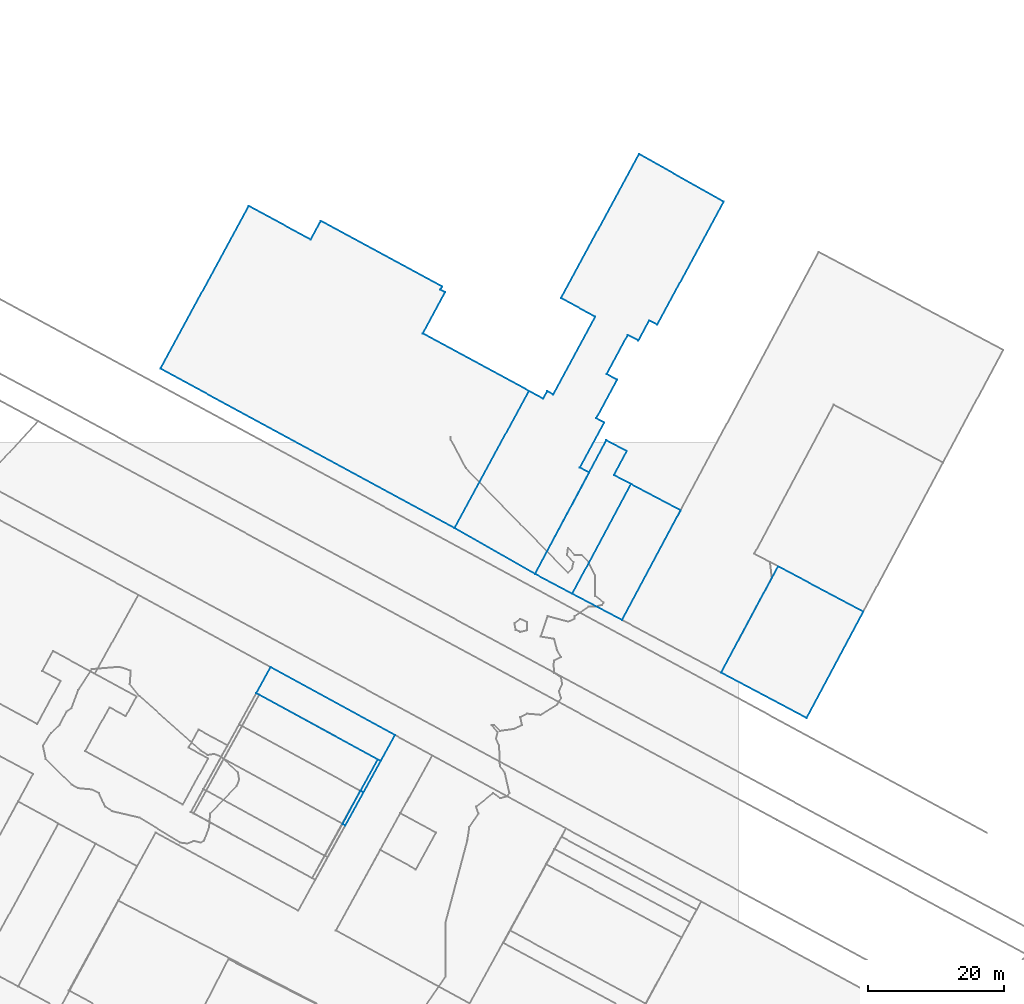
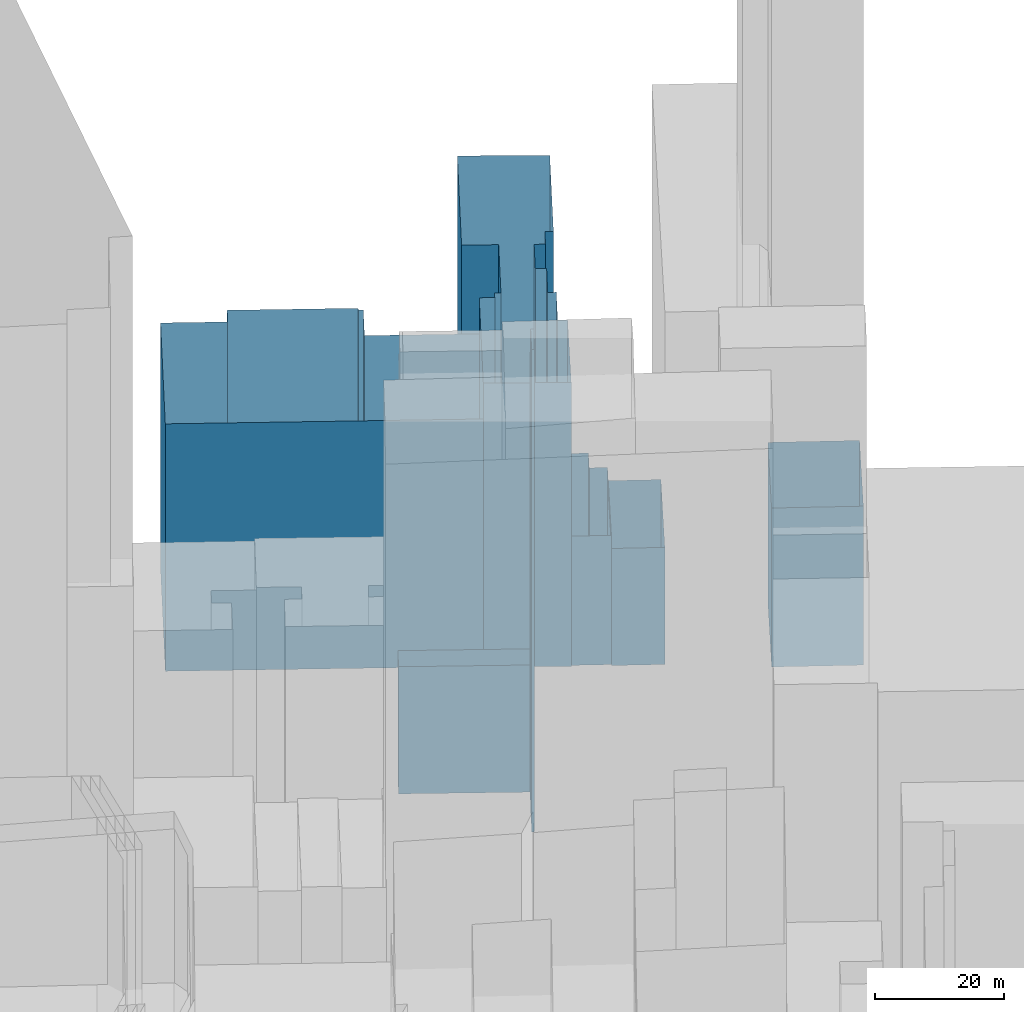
# Not in any storey, part 34 of 80: 8 walls.
"""IFC4 building model written with IfcOpenShell, lengths in metres."""

from ifc_helpers import new_model, si_unit, frame, origin_with_axes, place, context, subcontext, project, spatial, polygons, element, save


model = new_model("IFC4")

# Units and contexts
model_context = context("Model", 3, precision=1e-05, world=origin_with_axes())
body_context = subcontext(model_context, "Body", "Model", "MODEL_VIEW")
ifc_project = project(units=[si_unit("AREAUNIT", "SQUARE_METRE"), si_unit("LENGTHUNIT", "METRE")], contexts=[model_context])

# Sites, building
site_1_placement = place(None, origin_with_axes())
site_1 = spatial("IfcSite", under=ifc_project, at=site_1_placement, Name="Topoexport Site")
site_2_placement = place(site_1_placement, origin_with_axes())
site_2 = spatial("IfcSite", under=site_1, at=site_2_placement, Name="TPX_BATIMENTS")
building_1_placement = place(site_2_placement, frame((369.7036563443, 345.7479637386, 18.6004102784), z_axis=(0.0, 0.0, 1.0), x_axis=(1.0, 0.0, 0.0)))
building_1 = spatial("IfcBuilding", under=site_2, at=building_1_placement, Name="Batiment 225", CompositionType="ELEMENT")

# Wall
wall_1_placement = place(None, frame((369.7036563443, 345.7479637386, 18.6004102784), z_axis=(0.0, 0.0, 1.0), x_axis=(1.0, 0.0, 0.0)))
element("IfcWall", 1, at=wall_1_placement, inside=building_1, Name="Mur 0", context=body_context, shape_type="Tessellation", body=[
    polygons([(0.0, 0.0, 0.0), (12.5538989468, -6.6594085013, 0.0), (20.9058219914, 8.9810939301, 0.0), (8.3520704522, 15.6293873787, 0.0), (0.0, 0.0, 30.0), (12.5538989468, -6.6594085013, 30.0), (20.9058219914, 8.9810939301, 30.0), (8.3520704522, 15.6293873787, 30.0)], [[[6, 5, 2]], [[2, 5, 1]], [[7, 6, 3]], [[3, 6, 2]], [[5, 8, 1]], [[1, 8, 4]], [[8, 7, 4]], [[4, 7, 3]]]),
])

# Building
building_2_placement = place(site_2_placement, frame((347.815184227, 357.3501845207, 19.4967408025), z_axis=(0.0, 0.0, 1.0), x_axis=(1.0, 0.0, 0.0)))
building_2 = spatial("IfcBuilding", under=site_2, at=building_2_placement, Name="Batiment 227", CompositionType="ELEMENT")

# Wall
wall_2_placement = place(None, frame((347.815184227, 357.3501845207, 19.4967408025), z_axis=(0.0, 0.0, 1.0), x_axis=(1.0, 0.0, 0.0)))
element("IfcWall", 2, at=wall_2_placement, inside=building_2, Name="Mur 0", context=body_context, shape_type="Tessellation", body=[
    polygons([(0.0, 0.0, 0.0), (7.30458982, -3.8673156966, 0.0), (15.9293867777, 12.2648342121, 0.0), (8.6248078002, 16.13214132, 0.0), (0.0, 0.0, 22.1000003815), (7.30458982, -3.8673156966, 22.1000003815), (15.9293867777, 12.2648342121, 22.1000003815), (8.6248078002, 16.13214132, 22.1000003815)], [[[6, 5, 2]], [[2, 5, 1]], [[7, 6, 3]], [[3, 6, 2]], [[5, 8, 1]], [[1, 8, 4]], [[8, 7, 4]], [[4, 7, 3]]]),
])

# Building
building_3_placement = place(site_2_placement, frame((342.3281774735, 360.2616784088, 19.6845045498), z_axis=(0.0, 0.0, 1.0), x_axis=(1.0, 0.0, 0.0)))
building_3 = spatial("IfcBuilding", under=site_2, at=building_3_placement, Name="Batiment 228", CompositionType="ELEMENT")

# Wall
wall_3_placement = place(None, frame((342.3281774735, 360.2616784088, 19.6845045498), z_axis=(0.0, 0.0, 1.0), x_axis=(1.0, 0.0, 0.0)))
element("IfcWall", 3, at=wall_3_placement, inside=building_3, Name="Mur 0", context=body_context, shape_type="Tessellation", body=[
    polygons([(0.0, 0.0, 0.0), (5.4870067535, -2.9114938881, 0.0), (14.1118145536, 13.2206474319, 0.0), (11.6146310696, 14.5460328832, 0.0), (13.4982515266, 18.0651895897, 0.0), (10.4999972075, 19.6511924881, 0.0), (0.0, 0.0, 24.3999996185), (5.4870067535, -2.9114938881, 24.3999996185), (14.1118145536, 13.2206474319, 24.3999996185), (11.6146310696, 14.5460328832, 24.3999996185), (13.4982515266, 18.0651895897, 24.3999996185), (10.4999972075, 19.6511924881, 24.3999996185)], [[[8, 7, 2]], [[2, 7, 1]], [[9, 8, 3]], [[3, 8, 2]], [[10, 9, 4]], [[4, 9, 3]], [[11, 10, 5]], [[5, 10, 4]], [[7, 12, 1]], [[1, 12, 6]], [[12, 11, 6]], [[6, 11, 5]]]),
])

# Building
building_4_placement = place(site_2_placement, frame((301.3722657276, 342.7427764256, 20.3932714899), z_axis=(0.0, 0.0, 1.0), x_axis=(1.0, 0.0, 0.0)))
building_4 = spatial("IfcBuilding", under=site_2, at=building_4_placement, Name="Batiment 235", CompositionType="ELEMENT")

# Wall
wall_4_placement = place(None, frame((301.3722657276, 342.7427764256, 20.3932714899), z_axis=(0.0, 0.0, 1.0), x_axis=(1.0, 0.0, 0.0)))
element("IfcWall", 4, at=wall_4_placement, inside=building_4, Name="Mur 0", context=body_context, shape_type="Tessellation", body=[
    polygons([(0.0, 0.0, 0.0), (18.2820896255, -9.9901152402, 0.0), (20.3733817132, -6.1798910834, 0.0), (2.0912983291, 3.8102189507, 0.0), (0.0, 0.0, 24.0), (18.2820896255, -9.9901152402, 24.0), (20.3733817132, -6.1798910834, 24.0), (2.0912983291, 3.8102189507, 24.0)], [[[6, 5, 2]], [[2, 5, 1]], [[7, 6, 3]], [[3, 6, 2]], [[5, 8, 1]], [[1, 8, 4]], [[8, 7, 4]], [[4, 7, 3]]]),
])

# Building
building_5_placement = place(site_2_placement, frame((287.2771431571, 390.440545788, 19.5504613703), z_axis=(0.0, 0.0, 1.0), x_axis=(1.0, 0.0, 0.0)))
building_5 = spatial("IfcBuilding", under=site_2, at=building_5_placement, Name="Batiment 236", CompositionType="ELEMENT")

# Wall
wall_5_placement = place(None, frame((287.2771431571, 390.440545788, 19.5504613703), z_axis=(0.0, 0.0, 1.0), x_axis=(1.0, 0.0, 0.0)))
element("IfcWall", 5, at=wall_5_placement, inside=building_5, Name="Mur 0", context=body_context, shape_type="Tessellation", body=[
    polygons([(0.0, 0.0, 0.0), (43.2307270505, -23.4442358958, 0.0), (54.1635554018, -3.2662126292, 0.0), (38.558435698, 5.1896020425, 0.0), (41.8392282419, 11.2341347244, 0.0), (41.1511824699, 11.603598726, 0.0), (41.4073966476, 12.0728777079, 0.0), (23.5851064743, 21.7352532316, 0.0), (22.0893707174, 18.9755783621, 0.0), (12.9658813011, 23.9208852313, 0.0), (0.0, 0.0, 46.7000007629), (43.2307270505, -23.4442358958, 46.7000007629), (54.1635554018, -3.2662126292, 46.7000007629), (38.558435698, 5.1896020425, 46.7000007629), (41.8392282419, 11.2341347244, 46.7000007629), (41.1511824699, 11.603598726, 46.7000007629), (41.4073966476, 12.0728777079, 46.7000007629), (23.5851064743, 21.7352532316, 46.7000007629), (22.0893707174, 18.9755783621, 46.7000007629), (12.9658813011, 23.9208852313, 46.7000007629)], [[[12, 11, 2]], [[2, 11, 1]], [[13, 12, 3]], [[3, 12, 2]], [[14, 13, 4]], [[4, 13, 3]], [[15, 14, 5]], [[5, 14, 4]], [[16, 15, 6]], [[6, 15, 5]], [[17, 16, 7]], [[7, 16, 6]], [[18, 17, 8]], [[8, 17, 7]], [[19, 18, 9]], [[9, 18, 8]], [[11, 20, 1]], [[1, 20, 10]], [[20, 19, 10]], [[10, 19, 9]]]),
])

# Building
building_6_placement = place(site_2_placement, frame((330.5078702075, 366.9963098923, 19.4574403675), z_axis=(0.0, 0.0, 1.0), x_axis=(1.0, 0.0, 0.0)))
building_6 = spatial("IfcBuilding", under=site_2, at=building_6_placement, Name="Batiment 237", CompositionType="ELEMENT")

# Wall
wall_6_placement = place(None, frame((330.5078702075, 366.9963098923, 19.4574403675), z_axis=(0.0, 0.0, 1.0), x_axis=(1.0, 0.0, 0.0)))
element("IfcWall", 6, at=wall_6_placement, inside=building_6, Name="Mur 0", context=body_context, shape_type="Tessellation", body=[
    polygons([(0.0, 0.0, 0.0), (11.820307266, -6.7346314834, 0.0), (19.7924457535, 8.1797535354, 0.0), (18.4247873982, 8.9187760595, 0.0), (22.0029504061, 15.5218964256, 0.0), (20.8307096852, 16.1521722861, 0.0), (23.9048809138, 21.8168325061, 0.0), (22.3588177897, 22.6536963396, 0.0), (25.4824619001, 28.4188540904, 0.0), (27.0285242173, 27.5819909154, 0.0), (28.6399501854, 30.5539667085, 0.0), (29.8037492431, 29.9235937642, 0.0), (39.5792805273, 47.9898524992, 0.0), (27.1227912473, 54.9945837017, 0.0), (15.6529613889, 33.8221759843, 0.0), (20.6989844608, 31.0831847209, 0.0), (14.5094742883, 19.6645705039, 0.0), (13.6345794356, 20.1317770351, 0.0), (13.0395606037, 19.036824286, 0.0), (10.9328283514, 20.1780232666, 0.0), (0.0, 0.0, 53.5999984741), (11.820307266, -6.7346314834, 53.5999984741), (19.7924457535, 8.1797535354, 53.5999984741), (18.4247873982, 8.9187760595, 53.5999984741), (22.0029504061, 15.5218964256, 53.5999984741), (20.8307096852, 16.1521722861, 53.5999984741), (23.9048809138, 21.8168325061, 53.5999984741), (22.3588177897, 22.6536963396, 53.5999984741), (25.4824619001, 28.4188540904, 53.5999984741), (27.0285242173, 27.5819909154, 53.5999984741), (28.6399501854, 30.5539667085, 53.5999984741), (29.8037492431, 29.9235937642, 53.5999984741), (39.5792805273, 47.9898524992, 53.5999984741), (27.1227912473, 54.9945837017, 53.5999984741), (15.6529613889, 33.8221759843, 53.5999984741), (20.6989844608, 31.0831847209, 53.5999984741), (14.5094742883, 19.6645705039, 53.5999984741), (13.6345794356, 20.1317770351, 53.5999984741), (13.0395606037, 19.036824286, 53.5999984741), (10.9328283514, 20.1780232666, 53.5999984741)], [[[22, 21, 2]], [[2, 21, 1]], [[23, 22, 3]], [[3, 22, 2]], [[24, 23, 4]], [[4, 23, 3]], [[25, 24, 5]], [[5, 24, 4]], [[26, 25, 6]], [[6, 25, 5]], [[27, 26, 7]], [[7, 26, 6]], [[28, 27, 8]], [[8, 27, 7]], [[29, 28, 9]], [[9, 28, 8]], [[30, 29, 10]], [[10, 29, 9]], [[31, 30, 11]], [[11, 30, 10]], [[32, 31, 12]], [[12, 31, 11]], [[33, 32, 13]], [[13, 32, 12]], [[34, 33, 14]], [[14, 33, 13]], [[35, 34, 15]], [[15, 34, 14]], [[36, 35, 16]], [[16, 35, 15]], [[37, 36, 17]], [[17, 36, 16]], [[38, 37, 18]], [[18, 37, 17]], [[39, 38, 19]], [[19, 38, 18]], [[21, 40, 1]], [[1, 40, 20]], [[40, 39, 20]], [[20, 39, 19]]]),
])

# Building
building_7_placement = place(site_2_placement, frame((316.6664215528, 328.3768839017, 20.4318162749), z_axis=(0.0, 0.0, 1.0), x_axis=(1.0, 0.0, 0.0)))
building_7 = spatial("IfcBuilding", under=site_2, at=building_7_placement, Name="Batiment 270", CompositionType="ELEMENT")

# Wall
wall_7_placement = place(None, frame((316.6664215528, 328.3768839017, 20.4318162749), z_axis=(0.0, 0.0, 1.0), x_axis=(1.0, 0.0, 0.0)))
element("IfcWall", 7, at=wall_7_placement, inside=building_7, Name="Mur 0", context=body_context, shape_type="Tessellation", body=[
    polygons([(0.0, 0.0, 0.0), (0.4417346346, -0.2391061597, 0.0), (2.9879338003, 4.3757772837, 0.0), (2.5460700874, 4.6259840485, 0.0), (0.0, 0.0, 83.0), (0.4417346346, -0.2391061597, 83.0), (2.9879338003, 4.3757772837, 83.0), (2.5460700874, 4.6259840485, 83.0)], [[[6, 5, 2]], [[2, 5, 1]], [[7, 6, 3]], [[3, 6, 2]], [[5, 8, 1]], [[1, 8, 4]], [[8, 7, 4]], [[4, 7, 3]]]),
])

# Building
building_8_placement = place(site_2_placement, frame((314.0386603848, 323.5168021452, 20.4684876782), z_axis=(0.0, 0.0, 1.0), x_axis=(1.0, 0.0, 0.0)))
building_8 = spatial("IfcBuilding", under=site_2, at=building_8_placement, Name="Batiment 272", CompositionType="ELEMENT")

# Wall
wall_8_placement = place(None, frame((314.0386603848, 323.5168021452, 20.4684876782), z_axis=(0.0, 0.0, 1.0), x_axis=(1.0, 0.0, 0.0)))
element("IfcWall", 8, at=wall_8_placement, inside=building_8, Name="Mur 0", context=body_context, shape_type="Tessellation", body=[
    polygons([(0.0, 0.0, 0.0), (0.4077154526, -0.217297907, 0.0), (3.0694958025, 4.6209755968, 0.0), (2.6277611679, 4.8600817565, 0.0), (0.0, 0.0, 91.0), (0.4077154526, -0.217297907, 91.0), (3.0694958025, 4.6209755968, 91.0), (2.6277611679, 4.8600817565, 91.0)], [[[6, 5, 2]], [[2, 5, 1]], [[7, 6, 3]], [[3, 6, 2]], [[5, 8, 1]], [[1, 8, 4]], [[8, 7, 4]], [[4, 7, 3]]]),
])

save(model, "model.ifc")
